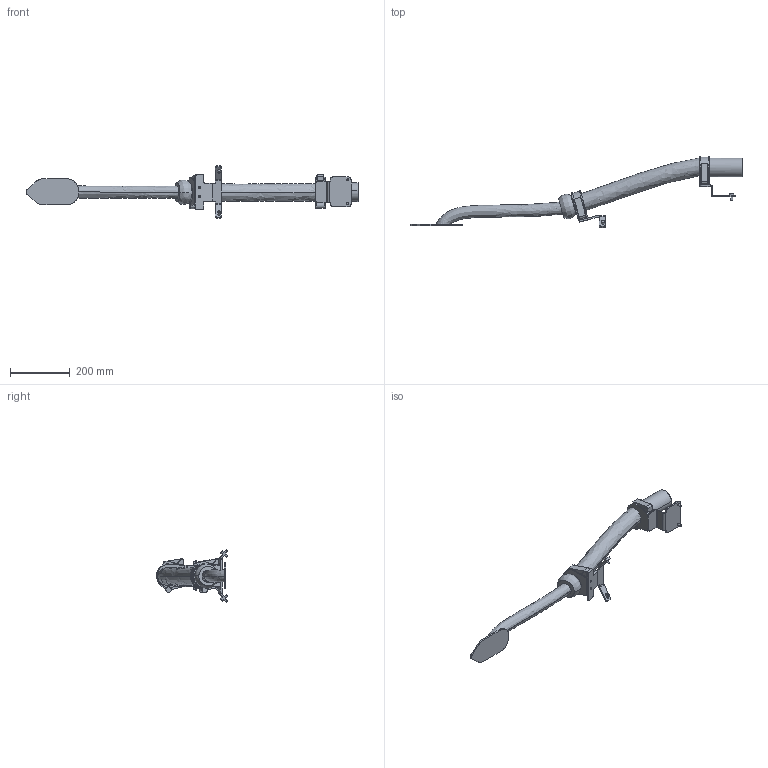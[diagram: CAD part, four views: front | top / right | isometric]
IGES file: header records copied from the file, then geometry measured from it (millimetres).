
Start section: SolidWorks IGES file using analytic representation for surfaces
Global section: file name: C:\Data\SAP_DOC\LW\IRB 6720\IRB6720-MH3_160kg-320_OC_01_SW_J\IRB6720-MH3_160kg-320_OC_01_IGES_J\IRB6720-MH3_160kg-320_OC_00_LINK04_CABLE.igs; native system: SolidWorks 2024; preprocessor: SolidWorks 2024; author: SEJOVAS3; date: 260610.134156; units: millimetre
Bounding box: 1110.31 x 238.88 x 174.65 mm (x, y, z)
Surface area: 292520.1 mm2 (no closed solid volume)
Topology: 0 solids, 0 shells, 281 faces, 3889 edges, 3889 vertices
Faces by surface type: bspline 192, revolution 89
